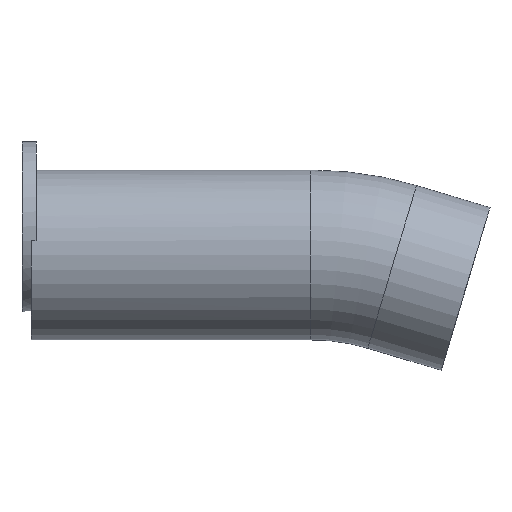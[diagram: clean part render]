
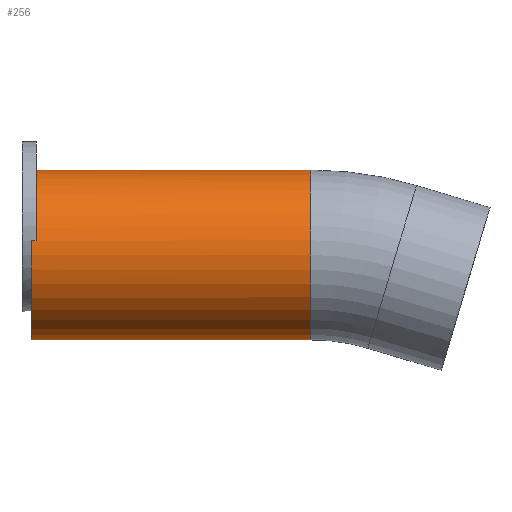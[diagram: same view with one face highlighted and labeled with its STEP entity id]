
A CAD part, left-side view. The second image highlights one B-rep face of the part: STEP entity #256.
In plain terms, the highlighted cylindrical face has radius 0.9 mm (diameter 1.8 mm), a full revolution.
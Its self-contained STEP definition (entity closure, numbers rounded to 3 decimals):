
#32 = CYLINDRICAL_SURFACE('',#33,0.9);
#33 = AXIS2_PLACEMENT_3D('',#34,#35,#36);
#34 = CARTESIAN_POINT('',(21.,-5.15,-6.7));
#35 = DIRECTION('',(0.,1.,0.));
#36 = DIRECTION('',(0.,-0.,1.));
#80 = VERTEX_POINT('',#81);
#81 = CARTESIAN_POINT('',(21.887,-5.15,-6.85));
#96 = PLANE('',#97);
#97 = AXIS2_PLACEMENT_3D('',#98,#99,#100);
#98 = CARTESIAN_POINT('',(21.,-5.15,-6.7));
#99 = DIRECTION('',(0.,1.,0.));
#100 = DIRECTION('',(0.,-0.,1.));
#108 = EDGE_CURVE('',#80,#109,#111,.T.);
#109 = VERTEX_POINT('',#110);
#110 = CARTESIAN_POINT('',(21.887,-5.1,-6.85));
#111 = SURFACE_CURVE('',#112,(#116,#122),.PCURVE_S1.);
#112 = LINE('',#113,#114);
#113 = CARTESIAN_POINT('',(21.887,-8.06,-6.85));
#114 = VECTOR('',#115,1.);
#115 = DIRECTION('',(0.,1.,0.));
#116 = PCURVE('',#32,#117);
#117 = DEFINITIONAL_REPRESENTATION('',(#118),#121);
#118 = B_SPLINE_CURVE_WITH_KNOTS('',1,(#119,#120),.UNSPECIFIED.,.F.,.F.,
  (2,2),(2.91,2.96),.PIECEWISE_BEZIER_KNOTS.);
#119 = CARTESIAN_POINT('',(1.738,0.));
#120 = CARTESIAN_POINT('',(1.738,0.05));
#121 = ( GEOMETRIC_REPRESENTATION_CONTEXT(2) 
PARAMETRIC_REPRESENTATION_CONTEXT() REPRESENTATION_CONTEXT('2D SPACE',''
  ) );
#122 = PCURVE('',#123,#128);
#123 = CYLINDRICAL_SURFACE('',#124,0.9);
#124 = AXIS2_PLACEMENT_3D('',#125,#126,#127);
#125 = CARTESIAN_POINT('',(21.,-8.06,-7.));
#126 = DIRECTION('',(0.,1.,0.));
#127 = DIRECTION('',(0.,-0.,1.));
#128 = DEFINITIONAL_REPRESENTATION('',(#129),#132);
#129 = B_SPLINE_CURVE_WITH_KNOTS('',1,(#130,#131),.UNSPECIFIED.,.F.,.F.,
  (2,2),(2.91,2.96),.PIECEWISE_BEZIER_KNOTS.);
#130 = CARTESIAN_POINT('',(1.403,2.91));
#131 = CARTESIAN_POINT('',(1.403,2.96));
#132 = ( GEOMETRIC_REPRESENTATION_CONTEXT(2) 
PARAMETRIC_REPRESENTATION_CONTEXT() REPRESENTATION_CONTEXT('2D SPACE',''
  ) );
#135 = VERTEX_POINT('',#136);
#136 = CARTESIAN_POINT('',(20.113,-5.1,-6.85));
#151 = PLANE('',#152);
#152 = AXIS2_PLACEMENT_3D('',#153,#154,#155);
#153 = CARTESIAN_POINT('',(21.,-5.1,-7.));
#154 = DIRECTION('',(0.,1.,0.));
#155 = DIRECTION('',(0.,-0.,1.));
#163 = EDGE_CURVE('',#164,#135,#166,.T.);
#164 = VERTEX_POINT('',#165);
#165 = CARTESIAN_POINT('',(20.113,-5.15,-6.85));
#166 = SURFACE_CURVE('',#167,(#171,#177),.PCURVE_S1.);
#167 = LINE('',#168,#169);
#168 = CARTESIAN_POINT('',(20.113,-8.06,-6.85));
#169 = VECTOR('',#170,1.);
#170 = DIRECTION('',(0.,1.,0.));
#171 = PCURVE('',#32,#172);
#172 = DEFINITIONAL_REPRESENTATION('',(#173),#176);
#173 = B_SPLINE_CURVE_WITH_KNOTS('',1,(#174,#175),.UNSPECIFIED.,.F.,.F.,
  (2,2),(2.91,2.96),.PIECEWISE_BEZIER_KNOTS.);
#174 = CARTESIAN_POINT('',(4.545,0.));
#175 = CARTESIAN_POINT('',(4.545,0.05));
#176 = ( GEOMETRIC_REPRESENTATION_CONTEXT(2) 
PARAMETRIC_REPRESENTATION_CONTEXT() REPRESENTATION_CONTEXT('2D SPACE',''
  ) );
#177 = PCURVE('',#123,#178);
#178 = DEFINITIONAL_REPRESENTATION('',(#179),#182);
#179 = B_SPLINE_CURVE_WITH_KNOTS('',1,(#180,#181),.UNSPECIFIED.,.F.,.F.,
  (2,2),(2.91,2.96),.PIECEWISE_BEZIER_KNOTS.);
#180 = CARTESIAN_POINT('',(4.88,2.91));
#181 = CARTESIAN_POINT('',(4.88,2.96));
#182 = ( GEOMETRIC_REPRESENTATION_CONTEXT(2) 
PARAMETRIC_REPRESENTATION_CONTEXT() REPRESENTATION_CONTEXT('2D SPACE',''
  ) );
#211 = EDGE_CURVE('',#212,#80,#214,.T.);
#212 = VERTEX_POINT('',#213);
#213 = CARTESIAN_POINT('',(21.,-5.15,-6.1));
#214 = SURFACE_CURVE('',#215,(#220,#227),.PCURVE_S1.);
#215 = CIRCLE('',#216,0.9);
#216 = AXIS2_PLACEMENT_3D('',#217,#218,#219);
#217 = CARTESIAN_POINT('',(21.,-5.15,-7.));
#218 = DIRECTION('',(0.,1.,0.));
#219 = DIRECTION('',(0.,-0.,1.));
#220 = PCURVE('',#96,#221);
#221 = DEFINITIONAL_REPRESENTATION('',(#222),#226);
#222 = CIRCLE('',#223,0.9);
#223 = AXIS2_PLACEMENT_2D('',#224,#225);
#224 = CARTESIAN_POINT('',(-0.3,0.));
#225 = DIRECTION('',(1.,0.));
#226 = ( GEOMETRIC_REPRESENTATION_CONTEXT(2) 
PARAMETRIC_REPRESENTATION_CONTEXT() REPRESENTATION_CONTEXT('2D SPACE',''
  ) );
#227 = PCURVE('',#123,#228);
#228 = DEFINITIONAL_REPRESENTATION('',(#229),#233);
#229 = LINE('',#230,#231);
#230 = CARTESIAN_POINT('',(0.,2.91));
#231 = VECTOR('',#232,1.);
#232 = DIRECTION('',(1.,0.));
#233 = ( GEOMETRIC_REPRESENTATION_CONTEXT(2) 
PARAMETRIC_REPRESENTATION_CONTEXT() REPRESENTATION_CONTEXT('2D SPACE',''
  ) );
#235 = EDGE_CURVE('',#164,#212,#236,.T.);
#236 = SURFACE_CURVE('',#237,(#242,#249),.PCURVE_S1.);
#237 = CIRCLE('',#238,0.9);
#238 = AXIS2_PLACEMENT_3D('',#239,#240,#241);
#239 = CARTESIAN_POINT('',(21.,-5.15,-7.));
#240 = DIRECTION('',(0.,1.,0.));
#241 = DIRECTION('',(0.,-0.,1.));
#242 = PCURVE('',#96,#243);
#243 = DEFINITIONAL_REPRESENTATION('',(#244),#248);
#244 = CIRCLE('',#245,0.9);
#245 = AXIS2_PLACEMENT_2D('',#246,#247);
#246 = CARTESIAN_POINT('',(-0.3,0.));
#247 = DIRECTION('',(1.,0.));
#248 = ( GEOMETRIC_REPRESENTATION_CONTEXT(2) 
PARAMETRIC_REPRESENTATION_CONTEXT() REPRESENTATION_CONTEXT('2D SPACE',''
  ) );
#249 = PCURVE('',#123,#250);
#250 = DEFINITIONAL_REPRESENTATION('',(#251),#255);
#251 = LINE('',#252,#253);
#252 = CARTESIAN_POINT('',(0.,2.91));
#253 = VECTOR('',#254,1.);
#254 = DIRECTION('',(1.,0.));
#255 = ( GEOMETRIC_REPRESENTATION_CONTEXT(2) 
PARAMETRIC_REPRESENTATION_CONTEXT() REPRESENTATION_CONTEXT('2D SPACE',''
  ) );
#256 = ADVANCED_FACE('',(#257),#123,.T.);
#257 = FACE_BOUND('',#258,.T.);
#258 = EDGE_LOOP('',(#259,#287,#307,#308,#309,#331,#332,#333));
#259 = ORIENTED_EDGE('',*,*,#260,.F.);
#260 = EDGE_CURVE('',#261,#261,#263,.T.);
#261 = VERTEX_POINT('',#262);
#262 = CARTESIAN_POINT('',(21.,-8.06,-6.1));
#263 = SURFACE_CURVE('',#264,(#269,#275),.PCURVE_S1.);
#264 = CIRCLE('',#265,0.9);
#265 = AXIS2_PLACEMENT_3D('',#266,#267,#268);
#266 = CARTESIAN_POINT('',(21.,-8.06,-7.));
#267 = DIRECTION('',(0.,-1.,0.));
#268 = DIRECTION('',(0.,0.,1.));
#269 = PCURVE('',#123,#270);
#270 = DEFINITIONAL_REPRESENTATION('',(#271),#274);
#271 = B_SPLINE_CURVE_WITH_KNOTS('',1,(#272,#273),.UNSPECIFIED.,.F.,.F.,
  (2,2),(0.,6.283),.PIECEWISE_BEZIER_KNOTS.);
#272 = CARTESIAN_POINT('',(6.283,0.));
#273 = CARTESIAN_POINT('',(0.,0.));
#274 = ( GEOMETRIC_REPRESENTATION_CONTEXT(2) 
PARAMETRIC_REPRESENTATION_CONTEXT() REPRESENTATION_CONTEXT('2D SPACE',''
  ) );
#275 = PCURVE('',#276,#281);
#276 = TOROIDAL_SURFACE('',#277,3.,0.9);
#277 = AXIS2_PLACEMENT_3D('',#278,#279,#280);
#278 = CARTESIAN_POINT('',(21.,-8.06,-10.));
#279 = DIRECTION('',(-1.,0.,0.));
#280 = DIRECTION('',(0.,-0.287,0.958));
#281 = DEFINITIONAL_REPRESENTATION('',(#282),#286);
#282 = LINE('',#283,#284);
#283 = CARTESIAN_POINT('',(0.291,0.));
#284 = VECTOR('',#285,1.);
#285 = DIRECTION('',(0.,1.));
#286 = ( GEOMETRIC_REPRESENTATION_CONTEXT(2) 
PARAMETRIC_REPRESENTATION_CONTEXT() REPRESENTATION_CONTEXT('2D SPACE',''
  ) );
#287 = ORIENTED_EDGE('',*,*,#288,.T.);
#288 = EDGE_CURVE('',#261,#212,#289,.T.);
#289 = SEAM_CURVE('',#290,(#294,#301),.PCURVE_S1.);
#290 = LINE('',#291,#292);
#291 = CARTESIAN_POINT('',(21.,-8.06,-6.1));
#292 = VECTOR('',#293,1.);
#293 = DIRECTION('',(0.,1.,0.));
#294 = PCURVE('',#123,#295);
#295 = DEFINITIONAL_REPRESENTATION('',(#296),#300);
#296 = LINE('',#297,#298);
#297 = CARTESIAN_POINT('',(0.,0.));
#298 = VECTOR('',#299,1.);
#299 = DIRECTION('',(0.,1.));
#300 = ( GEOMETRIC_REPRESENTATION_CONTEXT(2) 
PARAMETRIC_REPRESENTATION_CONTEXT() REPRESENTATION_CONTEXT('2D SPACE',''
  ) );
#301 = PCURVE('',#123,#302);
#302 = DEFINITIONAL_REPRESENTATION('',(#303),#306);
#303 = B_SPLINE_CURVE_WITH_KNOTS('',1,(#304,#305),.UNSPECIFIED.,.F.,.F.,
  (2,2),(0.,2.96),.PIECEWISE_BEZIER_KNOTS.);
#304 = CARTESIAN_POINT('',(6.283,0.));
#305 = CARTESIAN_POINT('',(6.283,2.96));
#306 = ( GEOMETRIC_REPRESENTATION_CONTEXT(2) 
PARAMETRIC_REPRESENTATION_CONTEXT() REPRESENTATION_CONTEXT('2D SPACE',''
  ) );
#307 = ORIENTED_EDGE('',*,*,#235,.F.);
#308 = ORIENTED_EDGE('',*,*,#163,.T.);
#309 = ORIENTED_EDGE('',*,*,#310,.F.);
#310 = EDGE_CURVE('',#109,#135,#311,.T.);
#311 = SURFACE_CURVE('',#312,(#317,#324),.PCURVE_S1.);
#312 = CIRCLE('',#313,0.9);
#313 = AXIS2_PLACEMENT_3D('',#314,#315,#316);
#314 = CARTESIAN_POINT('',(21.,-5.1,-7.));
#315 = DIRECTION('',(0.,1.,0.));
#316 = DIRECTION('',(0.,-0.,1.));
#317 = PCURVE('',#123,#318);
#318 = DEFINITIONAL_REPRESENTATION('',(#319),#323);
#319 = LINE('',#320,#321);
#320 = CARTESIAN_POINT('',(0.,2.96));
#321 = VECTOR('',#322,1.);
#322 = DIRECTION('',(1.,0.));
#323 = ( GEOMETRIC_REPRESENTATION_CONTEXT(2) 
PARAMETRIC_REPRESENTATION_CONTEXT() REPRESENTATION_CONTEXT('2D SPACE',''
  ) );
#324 = PCURVE('',#151,#325);
#325 = DEFINITIONAL_REPRESENTATION('',(#326),#330);
#326 = CIRCLE('',#327,0.9);
#327 = AXIS2_PLACEMENT_2D('',#328,#329);
#328 = CARTESIAN_POINT('',(0.,0.));
#329 = DIRECTION('',(1.,0.));
#330 = ( GEOMETRIC_REPRESENTATION_CONTEXT(2) 
PARAMETRIC_REPRESENTATION_CONTEXT() REPRESENTATION_CONTEXT('2D SPACE',''
  ) );
#331 = ORIENTED_EDGE('',*,*,#108,.F.);
#332 = ORIENTED_EDGE('',*,*,#211,.F.);
#333 = ORIENTED_EDGE('',*,*,#288,.F.);
